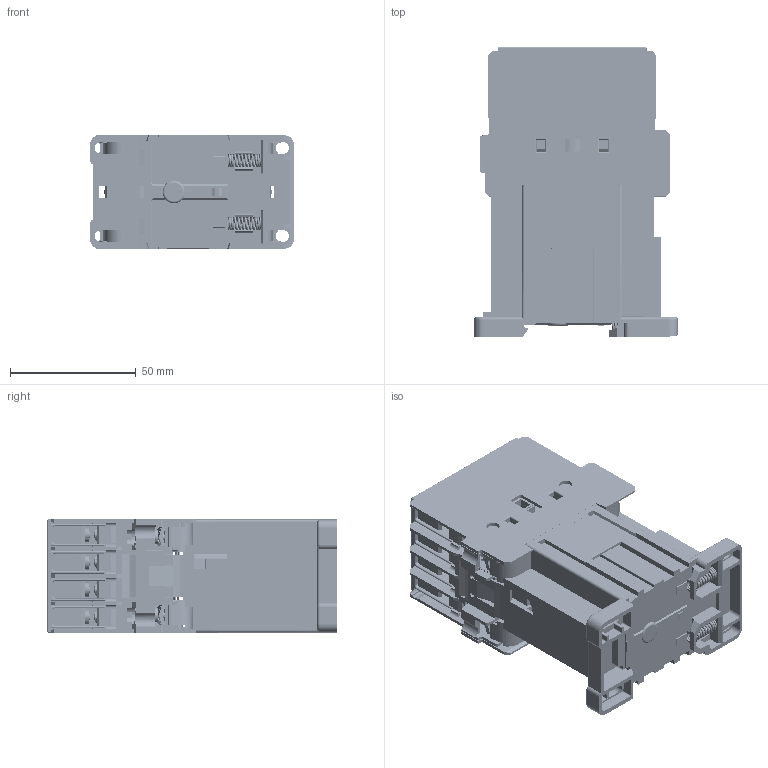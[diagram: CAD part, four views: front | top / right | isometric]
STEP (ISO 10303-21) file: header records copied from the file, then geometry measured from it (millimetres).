
FILE_DESCRIPTION((''),'2;1');
FILE_NAME('PRT0001','2023-07-08T11:57:21',('design1'),(''),'CREO PARAMETRIC BY PTC INC, 2022284','CREO PARAMETRIC BY PTC INC, 2022284','');
FILE_SCHEMA(('CONFIG_CONTROL_DESIGN'));
Products named in the file (1): PRT0001
Bounding box: 81 x 115.23 x 45 mm (x, y, z)
Surface area: 162769.3 mm2
Topology: 26 solids, 27 shells, 7181 faces, 21207 edges, 13939 vertices
Faces by surface type: plane 5164, cylinder 1248, extrusion 361, bspline 159, cone 127, torus 96, sphere 26
Entity records: 262966 total; most frequent: CARTESIAN_POINT 72423, ORIENTED_EDGE 42320, DIRECTION 35888, EDGE_CURVE 21168, VECTOR 16294, LINE 15933, VERTEX_POINT 13939, AXIS2_PLACEMENT_3D 9797
